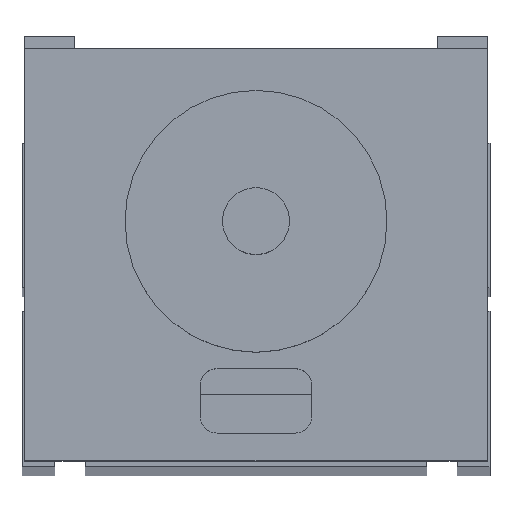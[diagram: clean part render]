
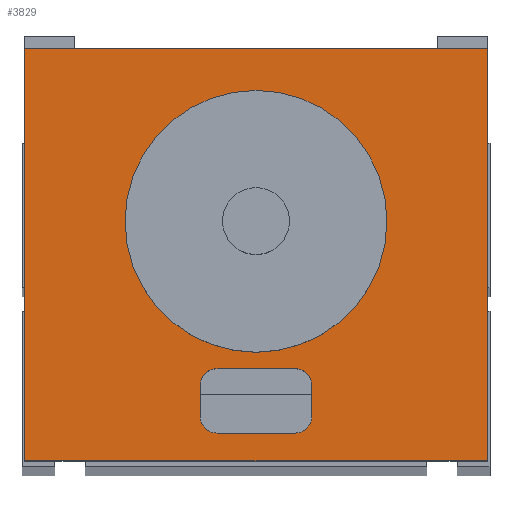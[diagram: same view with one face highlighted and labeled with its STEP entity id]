
A CAD part, top view. The second image highlights one B-rep face of the part: STEP entity #3829.
In plain terms, the highlighted planar face has unit normal (0, 0, 1).
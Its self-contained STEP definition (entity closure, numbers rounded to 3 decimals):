
#283 = VERTEX_POINT ( 'NONE', #792 ) ;
#328 = EDGE_CURVE ( 'NONE', #283, #329, #890, .T. ) ;
#329 = VERTEX_POINT ( 'NONE', #880 ) ;
#792 = CARTESIAN_POINT ( 'NONE',  ( 65., 43., 30. ) ) ;
#877 = DIRECTION ( 'NONE',  ( -1., 0., 0. ) ) ;
#878 = DIRECTION ( 'NONE',  ( 0., 0., 1. ) ) ;
#879 = CARTESIAN_POINT ( 'NONE',  ( 41.5, 43., 30. ) ) ;
#880 = CARTESIAN_POINT ( 'NONE',  ( 18., 43., 30. ) ) ;
#890 = CIRCLE ( 'NONE', #891, 23.5 ) ;
#891 = AXIS2_PLACEMENT_3D ( 'NONE', #879, #878, #877 ) ;
#1371 = FACE_OUTER_BOUND ( 'NONE', #4494, .T. ) ;
#1377 = FACE_BOUND ( 'NONE', #4524, .T. ) ;
#1384 = CARTESIAN_POINT ( 'NONE',  ( 48.5, 16.6, 30. ) ) ;
#1390 = CIRCLE ( 'NONE', #1451, 3. ) ;
#1394 = CARTESIAN_POINT ( 'NONE',  ( 34.5, 16.6, 30. ) ) ;
#1399 = CARTESIAN_POINT ( 'NONE',  ( 31.5, 13.6, 30. ) ) ;
#1400 = CIRCLE ( 'NONE', #1402, 3. ) ;
#1401 = CARTESIAN_POINT ( 'NONE',  ( 51.5, 13.6, 30. ) ) ;
#1402 = AXIS2_PLACEMENT_3D ( 'NONE', #1455, #1454, #1453 ) ;
#1403 = DIRECTION ( 'NONE',  ( -1., 0., 0. ) ) ;
#1404 = VECTOR ( 'NONE', #1403, 1000. ) ;
#1405 = CARTESIAN_POINT ( 'NONE',  ( 48.5, 13.6, 30. ) ) ;
#1408 = DIRECTION ( 'NONE',  ( -1., 0., 0. ) ) ;
#1409 = DIRECTION ( 'NONE',  ( 0., 0., -1. ) ) ;
#1410 = CARTESIAN_POINT ( 'NONE',  ( 0., 74., 30. ) ) ;
#1412 = AXIS2_PLACEMENT_3D ( 'NONE', #1410, #1409, #1408 ) ;
#1413 = FACE_BOUND ( 'NONE', #3835, .T. ) ;
#1418 = PLANE ( 'NONE',  #1412 ) ;
#1421 = CARTESIAN_POINT ( 'NONE',  ( 34.5, 16.6, 30. ) ) ;
#1422 = LINE ( 'NONE', #1421, #1404 ) ;
#1449 = DIRECTION ( 'NONE',  ( 1., 0., 0. ) ) ;
#1450 = DIRECTION ( 'NONE',  ( 0., 0., 1. ) ) ;
#1451 = AXIS2_PLACEMENT_3D ( 'NONE', #1405, #1450, #1449 ) ;
#1453 = DIRECTION ( 'NONE',  ( -1., 0., 0. ) ) ;
#1454 = DIRECTION ( 'NONE',  ( 0., 0., 1. ) ) ;
#1455 = CARTESIAN_POINT ( 'NONE',  ( 34.5, 13.6, 30. ) ) ;
#2102 = CARTESIAN_POINT ( 'NONE',  ( 34.5, 5., 30. ) ) ;
#2142 = CIRCLE ( 'NONE', #2199, 3. ) ;
#2167 = CARTESIAN_POINT ( 'NONE',  ( 31.5, 8., 30. ) ) ;
#2178 = DIRECTION ( 'NONE',  ( 1., 0., 0. ) ) ;
#2179 = VECTOR ( 'NONE', #2178, 1000. ) ;
#2180 = CARTESIAN_POINT ( 'NONE',  ( 34.5, 5., 30. ) ) ;
#2193 = LINE ( 'NONE', #2180, #2179 ) ;
#2195 = CARTESIAN_POINT ( 'NONE',  ( 48.5, 5., 30. ) ) ;
#2196 = DIRECTION ( 'NONE',  ( -1., 0., 0. ) ) ;
#2197 = DIRECTION ( 'NONE',  ( 0., 0., 1. ) ) ;
#2198 = CARTESIAN_POINT ( 'NONE',  ( 48.5, 8., 30. ) ) ;
#2199 = AXIS2_PLACEMENT_3D ( 'NONE', #2198, #2197, #2196 ) ;
#2273 = DIRECTION ( 'NONE',  ( 1., 0., 0. ) ) ;
#2274 = DIRECTION ( 'NONE',  ( 0., 0., 1. ) ) ;
#2285 = AXIS2_PLACEMENT_3D ( 'NONE', #2288, #2274, #2273 ) ;
#2288 = CARTESIAN_POINT ( 'NONE',  ( 34.5, 8., 30. ) ) ;
#2291 = CIRCLE ( 'NONE', #2285, 3. ) ;
#2391 = DIRECTION ( 'NONE',  ( -1., 0., 0. ) ) ;
#2392 = DIRECTION ( 'NONE',  ( 0., 0., 1. ) ) ;
#2393 = CARTESIAN_POINT ( 'NONE',  ( 41.5, 43., 30. ) ) ;
#2394 = AXIS2_PLACEMENT_3D ( 'NONE', #2393, #2392, #2391 ) ;
#2395 = CIRCLE ( 'NONE', #2394, 23.5 ) ;
#2396 = CARTESIAN_POINT ( 'NONE',  ( 31.5, 8., 30. ) ) ;
#2397 = LINE ( 'NONE', #2396, #2444 ) ;
#2399 = CARTESIAN_POINT ( 'NONE',  ( 83., 74., 30. ) ) ;
#2404 = LINE ( 'NONE', #2450, #2449 ) ;
#2406 = CARTESIAN_POINT ( 'NONE',  ( 0., 0., 30. ) ) ;
#2407 = DIRECTION ( 'NONE',  ( 1., 0., 0. ) ) ;
#2408 = VECTOR ( 'NONE', #2407, 1000. ) ;
#2409 = CARTESIAN_POINT ( 'NONE',  ( 0., 0., 30. ) ) ;
#2414 = LINE ( 'NONE', #2409, #2408 ) ;
#2427 = DIRECTION ( 'NONE',  ( 0., 1., 0. ) ) ;
#2428 = VECTOR ( 'NONE', #2427, 1000. ) ;
#2433 = CARTESIAN_POINT ( 'NONE',  ( 83., 0., 30. ) ) ;
#2434 = LINE ( 'NONE', #2433, #2428 ) ;
#2443 = DIRECTION ( 'NONE',  ( 0., -1., 0. ) ) ;
#2444 = VECTOR ( 'NONE', #2443, 1000. ) ;
#2448 = DIRECTION ( 'NONE',  ( 0., -1., 0. ) ) ;
#2449 = VECTOR ( 'NONE', #2448, 1000. ) ;
#2450 = CARTESIAN_POINT ( 'NONE',  ( 0., 0., 30. ) ) ;
#2464 = DIRECTION ( 'NONE',  ( -1., 0., 0. ) ) ;
#2465 = VECTOR ( 'NONE', #2464, 1000. ) ;
#2466 = CARTESIAN_POINT ( 'NONE',  ( 0., 74., 30. ) ) ;
#2468 = CARTESIAN_POINT ( 'NONE',  ( 0., 74., 30. ) ) ;
#2470 = LINE ( 'NONE', #2466, #2465 ) ;
#2476 = CARTESIAN_POINT ( 'NONE',  ( 83., 0., 30. ) ) ;
#2485 = CARTESIAN_POINT ( 'NONE',  ( 51.5, 8., 30. ) ) ;
#2486 = LINE ( 'NONE', #2485, #2545 ) ;
#2493 = CARTESIAN_POINT ( 'NONE',  ( 51.5, 8., 30. ) ) ;
#2544 = DIRECTION ( 'NONE',  ( 0., 1., 0. ) ) ;
#2545 = VECTOR ( 'NONE', #2544, 1000. ) ;
#3774 = ORIENTED_EDGE ( 'NONE', *, *, #3838, .F. ) ;
#3776 = ORIENTED_EDGE ( 'NONE', *, *, #4557, .F. ) ;
#3828 = VERTEX_POINT ( 'NONE', #1384 ) ;
#3829 = ADVANCED_FACE ( 'NONE', ( #1413, #1371, #1377 ), #1418, .F. ) ;
#3830 = ORIENTED_EDGE ( 'NONE', *, *, #3839, .F. ) ;
#3831 = EDGE_CURVE ( 'NONE', #3828, #3840, #1422, .T. ) ;
#3833 = ORIENTED_EDGE ( 'NONE', *, *, #3831, .F. ) ;
#3834 = VERTEX_POINT ( 'NONE', #1401 ) ;
#3835 = EDGE_LOOP ( 'NONE', ( #3774, #3833, #3830, #3776, #4359, #4369, #4377, #4367 ) ) ;
#3836 = VERTEX_POINT ( 'NONE', #1399 ) ;
#3838 = EDGE_CURVE ( 'NONE', #3840, #3836, #1400, .T. ) ;
#3839 = EDGE_CURVE ( 'NONE', #3834, #3828, #1390, .T. ) ;
#3840 = VERTEX_POINT ( 'NONE', #1394 ) ;
#4295 = VERTEX_POINT ( 'NONE', #2102 ) ;
#4341 = VERTEX_POINT ( 'NONE', #2167 ) ;
#4357 = EDGE_CURVE ( 'NONE', #4362, #4558, #2142, .T. ) ;
#4359 = ORIENTED_EDGE ( 'NONE', *, *, #4357, .F. ) ;
#4362 = VERTEX_POINT ( 'NONE', #2195 ) ;
#4365 = EDGE_CURVE ( 'NONE', #4295, #4362, #2193, .T. ) ;
#4367 = ORIENTED_EDGE ( 'NONE', *, *, #4514, .F. ) ;
#4369 = ORIENTED_EDGE ( 'NONE', *, *, #4365, .F. ) ;
#4377 = ORIENTED_EDGE ( 'NONE', *, *, #4429, .F. ) ;
#4429 = EDGE_CURVE ( 'NONE', #4341, #4295, #2291, .T. ) ;
#4491 = ORIENTED_EDGE ( 'NONE', *, *, #4531, .T. ) ;
#4494 = EDGE_LOOP ( 'NONE', ( #4518, #4528, #4511, #4491 ) ) ;
#4495 = EDGE_CURVE ( 'NONE', #4499, #4529, #2414, .T. ) ;
#4496 = ORIENTED_EDGE ( 'NONE', *, *, #4504, .F. ) ;
#4499 = VERTEX_POINT ( 'NONE', #2406 ) ;
#4504 = EDGE_CURVE ( 'NONE', #329, #283, #2395, .T. ) ;
#4507 = VERTEX_POINT ( 'NONE', #2399 ) ;
#4508 = ORIENTED_EDGE ( 'NONE', *, *, #328, .F. ) ;
#4510 = EDGE_CURVE ( 'NONE', #4532, #4499, #2404, .T. ) ;
#4511 = ORIENTED_EDGE ( 'NONE', *, *, #4519, .T. ) ;
#4514 = EDGE_CURVE ( 'NONE', #3836, #4341, #2397, .T. ) ;
#4518 = ORIENTED_EDGE ( 'NONE', *, *, #4510, .T. ) ;
#4519 = EDGE_CURVE ( 'NONE', #4529, #4507, #2434, .T. ) ;
#4524 = EDGE_LOOP ( 'NONE', ( #4496, #4508 ) ) ;
#4528 = ORIENTED_EDGE ( 'NONE', *, *, #4495, .T. ) ;
#4529 = VERTEX_POINT ( 'NONE', #2476 ) ;
#4531 = EDGE_CURVE ( 'NONE', #4507, #4532, #2470, .T. ) ;
#4532 = VERTEX_POINT ( 'NONE', #2468 ) ;
#4557 = EDGE_CURVE ( 'NONE', #4558, #3834, #2486, .T. ) ;
#4558 = VERTEX_POINT ( 'NONE', #2493 ) ;
